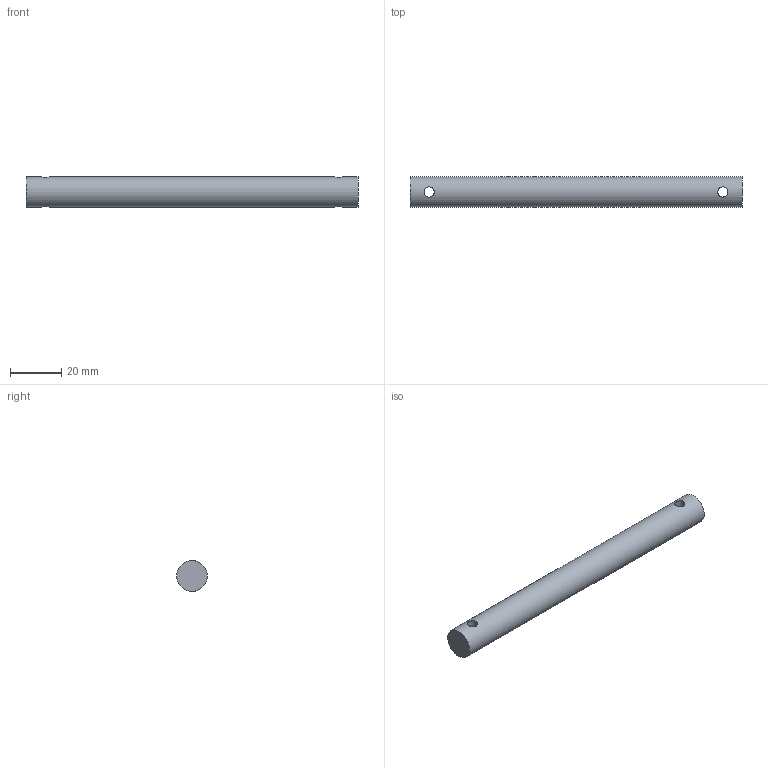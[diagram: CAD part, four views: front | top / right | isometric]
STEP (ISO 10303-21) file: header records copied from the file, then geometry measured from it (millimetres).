
FILE_DESCRIPTION(/* description */ (''),/* implementation_level */ '2;1');
FILE_NAME(/* name */ 'Nut Lock Pin.step',/* time_stamp */ '2026-10-06T11:30:23+05:30',/* author */ (''),/* organization */ (''),/* preprocessor_version */ 'ST-DEVELOPER v20.2',/* originating_system */ 'Autodesk Translation Framework v15.15.0.0',/* authorisation */ '');
FILE_SCHEMA (('AUTOMOTIVE_DESIGN { 1 0 10303 214 3 1 1 }'));
Length unit declared in the file: millimetre
Products named in the file (1): 2026-10-06-11-30-05-869
Bounding box: 130 x 12 x 12 mm (x, y, z)
Volume: 14405.3 mm3; surface area: 5369.1 mm2
Topology: 1 solids, 1 shells, 5 faces, 13 edges, 10 vertices
Faces by surface type: cylinder 3, plane 2
Full cylindrical faces by diameter (mm): 4 x2, 12 x1
Entity records: 322 total; most frequent: CARTESIAN_POINT 165, ORIENTED_EDGE 26, DIRECTION 19, EDGE_CURVE 13, VERTEX_POINT 10, EDGE_LOOP 9, B_SPLINE_CURVE_WITH_KNOTS 8, AXIS2_PLACEMENT_3D 8
